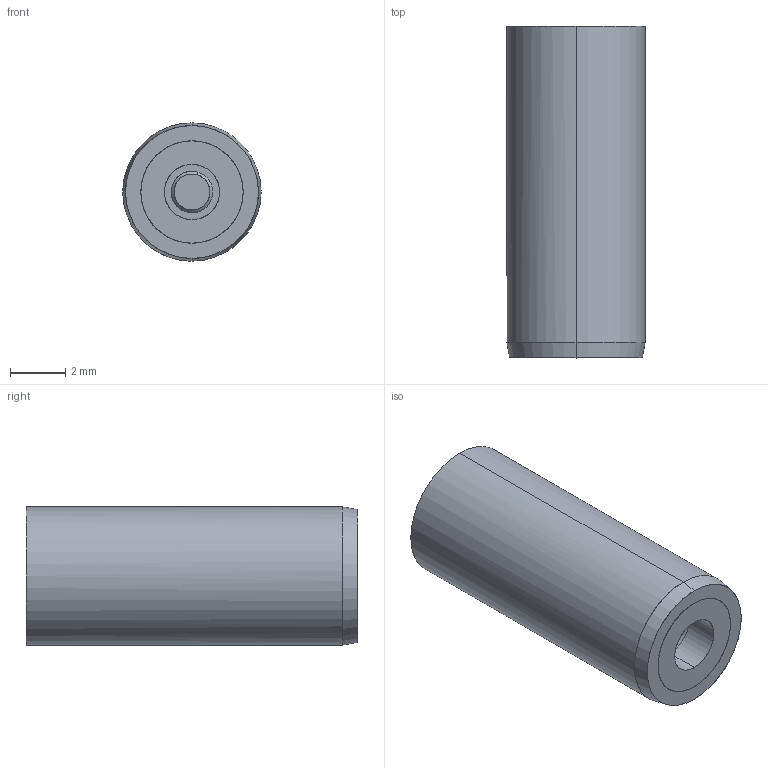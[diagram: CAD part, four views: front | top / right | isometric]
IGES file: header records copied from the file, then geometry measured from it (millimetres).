
Start section: START RECORD GO HERE.
Global section: file name: va050412.igs; native system: DASSAULT SYSTEMES CATIA V5 R20 - www.3ds.com; preprocessor: CATIA Version 5 Release 20 ; author: Utente; organization: NB04-ASUS; date: 20201107.140819; units: millimetre
Bounding box: 5 x 12 x 5 mm (x, y, z)
Surface area: 513.8 mm2 (no closed solid volume)
Topology: 0 solids, 0 shells, 152 faces, 636 edges, 636 vertices
Faces by surface type: bspline 72, revolution 50, plane 30
